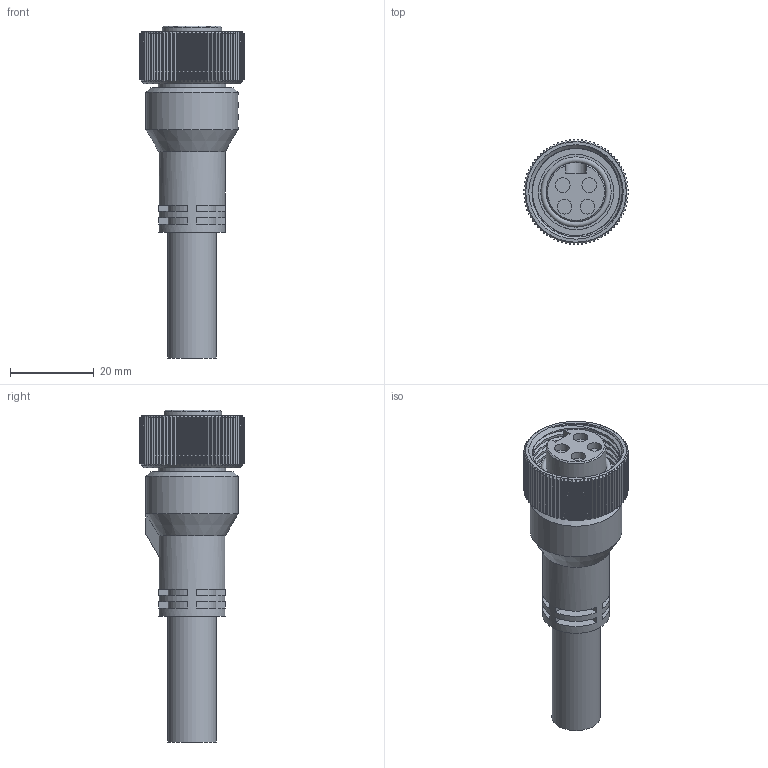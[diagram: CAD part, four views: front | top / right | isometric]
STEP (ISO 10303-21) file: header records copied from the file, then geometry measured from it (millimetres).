
FILE_DESCRIPTION (( 'STEP AP203' ), '1' );
FILE_NAME ('CM03A-P4S-xxx(R1).STEP', '2022-04-07T07:13:03', ( '' ), ( '' ), 'SwSTEP 2.0', 'SolidWorks 2018', '' );
FILE_SCHEMA (( 'CONFIG_CONTROL_DESIGN' ));
Length unit declared in the file: millimetre
Products named in the file (1): CM03A-P4S-xxx(R1)
Bounding box: 24.98 x 24.98 x 79.3 mm (x, y, z)
Volume: 16518.2 mm3; surface area: 7734.7 mm2
Topology: 1 solids, 1 shells, 570 faces, 1646 edges, 1096 vertices
Faces by surface type: cylinder 345, plane 211, cone 7, bspline 6, torus 1
Full cylindrical faces by diameter (mm): 3.5 x4, 11.6 x1, 14.2 x1, 16 x1, 16.2 x1, 18 x1, 22 x1, 22.7 x1
Entity records: 23175 total; most frequent: CARTESIAN_POINT 9707, ORIENTED_EDGE 3226, DIRECTION 2143, EDGE_CURVE 1613, VERTEX_POINT 1085, B_SPLINE_CURVE_WITH_KNOTS 824, AXIS2_PLACEMENT_3D 793, EDGE_LOOP 612
